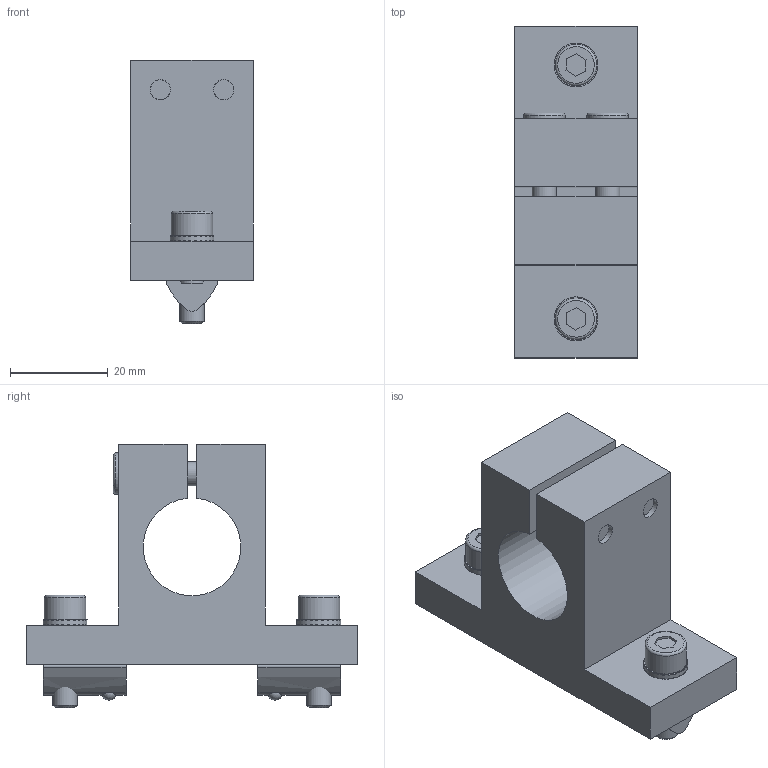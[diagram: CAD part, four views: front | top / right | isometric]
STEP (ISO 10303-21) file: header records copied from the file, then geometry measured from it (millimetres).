
FILE_DESCRIPTION(('STEP AP214'),'1');
FILE_NAME('CA.03.07.003.6.stp','2017-03-16T10:16:32',(' '),(' '),'Spatial InterOp 3D',' ',' ');
FILE_SCHEMA(('automotive_design'));
Length unit declared in the file: millimetre
Products named in the file (7): CA.02.05.005; CA.03.07.003; V-tcei M  5 x 25 2; R.5.SCH; 03.07.003; V-tcei M  5 x 18
Assembly tree (12 placements, depth 3):
  (unnamed)
    CA.02.05.005  x2
    CA.03.07.003
      V-tcei M  5 x 25 2  x2
      R.5.SCH  x2
      03.07.003
    R.5.SCH  x2
    V-tcei M  5 x 18  x2
Bounding box: 25 x 68 x 53.9 mm (x, y, z)
Volume: 34973.2 mm3; surface area: 15464.1 mm2
Topology: 7 solids, 11 shells, 912 faces, 2664 edges, 1768 vertices
Faces by surface type: plane 839, cylinder 59, torus 8, cone 4, sphere 2
Full cylindrical faces by diameter (mm): 4.134 x2, 4.2 x2, 5 x4, 5.2 x4, 5.3 x4, 8.5 x4, 9 x4, 11 x2
Entity records: 11325 total; most frequent: CARTESIAN_POINT 1677, DIRECTION 1561, ORIENTED_EDGE 1506, EDGE_CURVE 753, AXIS2_PLACEMENT_3D 536, VERTEX_POINT 512, LINE 489, VECTOR 489
